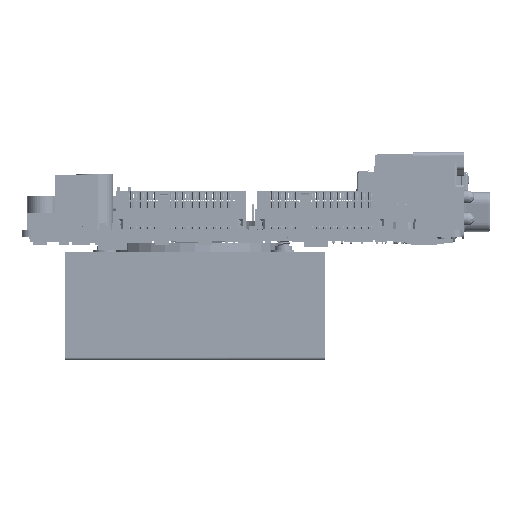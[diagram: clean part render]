
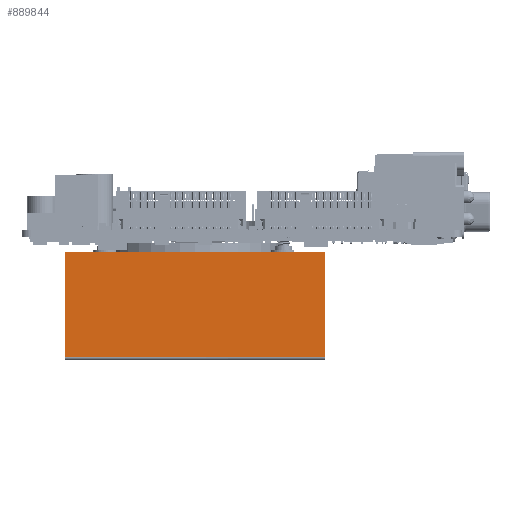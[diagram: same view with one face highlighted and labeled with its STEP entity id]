
A CAD part, left-side view. The second image highlights one B-rep face of the part: STEP entity #889844.
In plain terms, the highlighted planar face has unit normal (-1, 0, 0).
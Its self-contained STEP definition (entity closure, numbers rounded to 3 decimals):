
#861937=CARTESIAN_POINT('',(0.,26.403,12.5));
#863026=CARTESIAN_POINT('',(0.,26.403,-47.5));
#863035=DIRECTION('',(0.,1.,0.));
#863036=VECTOR('',#863035,7.);
#863037=CARTESIAN_POINT('',(0.,2.,-47.5));
#863038=LINE('',#863037,#863036);
#864494=DIRECTION('',(0.,0.,-1.));
#864495=VECTOR('',#864494,60.);
#864496=CARTESIAN_POINT('',(0.,2.,12.5));
#864497=LINE('',#864496,#864495);
#871647=DIRECTION('',(0.,1.,0.));
#871648=VECTOR('',#871647,7.);
#871649=CARTESIAN_POINT('',(0.,2.,12.5));
#871650=LINE('',#871649,#871648);
#871651=DIRECTION('',(0.,-1.,0.));
#871652=VECTOR('',#871651,17.403);
#871653=CARTESIAN_POINT('',(0.,26.403,-47.5));
#871654=LINE('',#871653,#871652);
#871655=DIRECTION('',(0.,1.,0.));
#871656=VECTOR('',#871655,17.403);
#871657=CARTESIAN_POINT('',(0.,9.,12.5));
#871658=LINE('',#871657,#871656);
#871663=DIRECTION('',(0.,0.,1.));
#871664=VECTOR('',#871663,60.);
#871665=CARTESIAN_POINT('',(0.,26.403,-47.5));
#871666=LINE('',#871665,#871664);
#872903=CARTESIAN_POINT('',(0.,2.,12.5));
#872904=CARTESIAN_POINT('',(0.,9.,12.5));
#872905=VERTEX_POINT('',#872903);
#872906=VERTEX_POINT('',#872904);
#874099=VERTEX_POINT('',#861937);
#874537=CARTESIAN_POINT('',(0.,2.,-47.5));
#874538=CARTESIAN_POINT('',(0.,9.,-47.5));
#874539=VERTEX_POINT('',#874537);
#874540=VERTEX_POINT('',#874538);
#875914=VERTEX_POINT('',#863026);
#889830=CARTESIAN_POINT('',(0.,26.4,-47.5));
#889831=DIRECTION('',(-1.,0.,0.));
#889832=DIRECTION('',(0.,0.,1.));
#889833=AXIS2_PLACEMENT_3D('',#889830,#889831,#889832);
#889834=PLANE('',#889833);
#889835=ORIENTED_EDGE('',*,*,#877423,.F.);
#889836=ORIENTED_EDGE('',*,*,#880932,.T.);
#889837=ORIENTED_EDGE('',*,*,#879065,.T.);
#889838=ORIENTED_EDGE('',*,*,#879063,.F.);
#889840=ORIENTED_EDGE('',*,*,#889839,.T.);
#889841=ORIENTED_EDGE('',*,*,#877425,.F.);
#889842=EDGE_LOOP('',(#889835,#889836,#889837,#889838,#889840,#889841));
#889843=FACE_OUTER_BOUND('',#889842,.F.);
#889844=ADVANCED_FACE('',(#889843),#889834,.T.);
#877423=EDGE_CURVE('',#872905,#872906,#871650,.T.);
#877425=EDGE_CURVE('',#872906,#874099,#871658,.T.);
#879063=EDGE_CURVE('',#875914,#874540,#871654,.T.);
#879065=EDGE_CURVE('',#874539,#874540,#863038,.T.);
#880932=EDGE_CURVE('',#872905,#874539,#864497,.T.);
#889839=EDGE_CURVE('',#875914,#874099,#871666,.T.);
